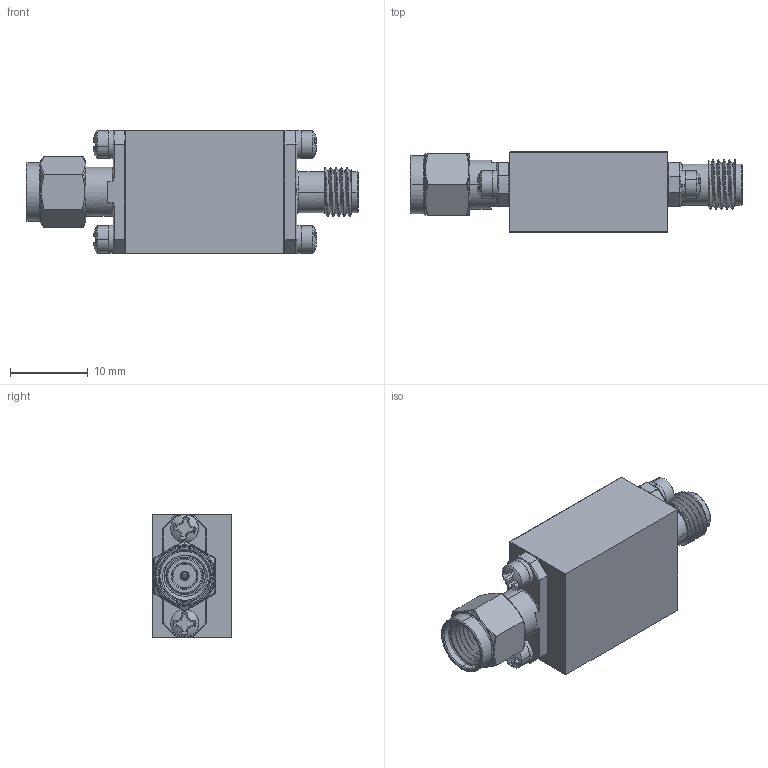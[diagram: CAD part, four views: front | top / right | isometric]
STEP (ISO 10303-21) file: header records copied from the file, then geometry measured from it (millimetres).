
FILE_DESCRIPTION (( 'STEP AP214' ), '1' );
FILE_NAME ('LM-4G18G STEP Model.STEP', '2024-04-25T13:17:27', ( '' ), ( '' ), 'SwSTEP 2.0', 'SolidWorks 2023', '' );
FILE_SCHEMA (( 'AUTOMOTIVE_DESIGN' ));
Length unit declared in the file: inch
Products named in the file (1): LM-4G18G STEP Model
Bounding box: 42.7 x 10.29 x 15.9 mm (x, y, z)
Volume: 3896.2 mm3; surface area: 5272.2 mm2
Topology: 28 solids, 28 shells, 1195 faces, 4275 edges, 3253 vertices
Faces by surface type: plane 514, cylinder 314, torus 142, cone 128, sphere 50, bspline 47
Entity records: 50059 total; most frequent: CARTESIAN_POINT 12473, ORIENTED_EDGE 8382, DIRECTION 7168, EDGE_CURVE 4191, VERTEX_POINT 3249, LINE 2506, VECTOR 2506, AXIS2_PLACEMENT_3D 2331
